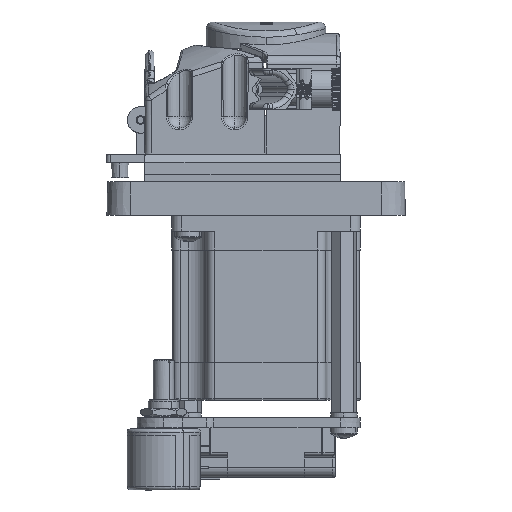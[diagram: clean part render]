
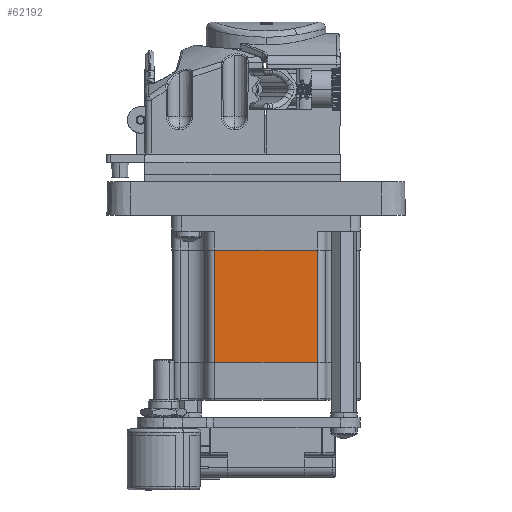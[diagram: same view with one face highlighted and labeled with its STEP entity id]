
A CAD part, left-side view. The second image highlights one B-rep face of the part: STEP entity #62192.
In plain terms, the highlighted planar face has unit normal (-1, 0, 0).
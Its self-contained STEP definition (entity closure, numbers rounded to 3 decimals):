
#3643 = CARTESIAN_POINT ( 'NONE',  ( -28.3, -15.57, -59.85 ) ) ;
#5937 = EDGE_CURVE ( 'NONE', #66157, #16868, #35291, .T. ) ;
#7837 = ORIENTED_EDGE ( 'NONE', *, *, #21228, .F. ) ;
#8018 = DIRECTION ( 'NONE',  ( 0., 0., -1. ) ) ;
#9508 = DIRECTION ( 'NONE',  ( 0., 1., 0. ) ) ;
#14920 = CARTESIAN_POINT ( 'NONE',  ( -28.3, 15.57, 65.26 ) ) ;
#16868 = VERTEX_POINT ( 'NONE', #46029 ) ;
#21228 = EDGE_CURVE ( 'NONE', #66157, #65040, #54188, .T. ) ;
#23088 = EDGE_LOOP ( 'NONE', ( #70373, #29688, #46766, #7837 ) ) ;
#23959 = DIRECTION ( 'NONE',  ( -1., 0., 0. ) ) ;
#25497 = CARTESIAN_POINT ( 'NONE',  ( -28.3, -15.57, -25.85 ) ) ;
#25858 = VECTOR ( 'NONE', #9508, 1000. ) ;
#27234 = CARTESIAN_POINT ( 'NONE',  ( -28.3, -15.57, -25.85 ) ) ;
#28338 = VECTOR ( 'NONE', #8018, 1000. ) ;
#29688 = ORIENTED_EDGE ( 'NONE', *, *, #31958, .T. ) ;
#31958 = EDGE_CURVE ( 'NONE', #16868, #72985, #74507, .T. ) ;
#35291 = LINE ( 'NONE', #27234, #64214 ) ;
#44732 = CARTESIAN_POINT ( 'NONE',  ( -28.3, -15.57, -59.85 ) ) ;
#45211 = EDGE_CURVE ( 'NONE', #65040, #72985, #71995, .T. ) ;
#45703 = CARTESIAN_POINT ( 'NONE',  ( -28.3, -15.57, 65.26 ) ) ;
#46029 = CARTESIAN_POINT ( 'NONE',  ( -28.3, 15.57, -25.85 ) ) ;
#46766 = ORIENTED_EDGE ( 'NONE', *, *, #45211, .F. ) ;
#48000 = AXIS2_PLACEMENT_3D ( 'NONE', #52702, #23959, #64377 ) ;
#50212 = DIRECTION ( 'NONE',  ( 0., 1., 0. ) ) ;
#52357 = VECTOR ( 'NONE', #63142, 1000. ) ;
#52451 = PLANE ( 'NONE',  #48000 ) ;
#52702 = CARTESIAN_POINT ( 'NONE',  ( -28.3, -15.57, 65.26 ) ) ;
#53991 = FACE_OUTER_BOUND ( 'NONE', #23088, .T. ) ;
#54188 = LINE ( 'NONE', #45703, #52357 ) ;
#62192 = ADVANCED_FACE ( 'NONE', ( #53991 ), #52451, .T. ) ;
#63142 = DIRECTION ( 'NONE',  ( 0., 0., -1. ) ) ;
#64214 = VECTOR ( 'NONE', #50212, 1000. ) ;
#64377 = DIRECTION ( 'NONE',  ( 0., 0., 1. ) ) ;
#65040 = VERTEX_POINT ( 'NONE', #44732 ) ;
#66157 = VERTEX_POINT ( 'NONE', #25497 ) ;
#70373 = ORIENTED_EDGE ( 'NONE', *, *, #5937, .T. ) ;
#71824 = CARTESIAN_POINT ( 'NONE',  ( -28.3, 15.57, -59.85 ) ) ;
#71995 = LINE ( 'NONE', #3643, #25858 ) ;
#72985 = VERTEX_POINT ( 'NONE', #71824 ) ;
#74507 = LINE ( 'NONE', #14920, #28338 ) ;
